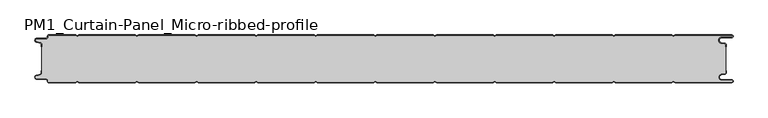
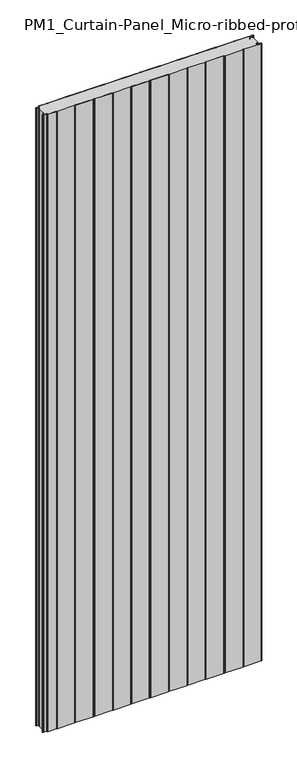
"""IFC4 building model written with IfcOpenShell, lengths in millimetres: plate geometry, PM1_Curtain-Panel_Micro-ribbed-profile : ACH_PM1_Stone-wool-Panel_80M."""

from ifc_helpers import new_model, si_unit, point, frame_2d, origin, origin_with_axes, place, context, project, spatial, polyline, circle_curve, trimmed, segment, composite_curve, outline, extrude, source, transform, mapped, element, save


def pm1_curtain_panel_micro_ribbed_profile_60066d41(model_context):
    return source(origin(), model_context, "Body", "SweptSolid", [
        extrude(outline(composite_curve([segment(trimmed(circle_curve(frame_2d((-577.0, -15.878557)), 2.0), [point((-575.0, -15.878557))], [point((-576.5500978, -13.9298169))], True, "CARTESIAN"), True, "CONTINUOUS"), segment(polyline([(-576.5500978, -13.9298169), (-582.7098239, -12.507732)]), True, "CONTINUOUS"), segment(trimmed(circle_curve(frame_2d((-581.9, -9.0)), 3.6), [point((-582.7098239, -12.507732))], [point((-581.9, -5.4))], False, "CARTESIAN"), True, "CONTINUOUS"), segment(polyline([(-581.9, -5.4), (-566.4, -5.4)]), True, "CONTINUOUS"), segment(trimmed(circle_curve(frame_2d((-566.4, -3.4)), 2.0), [point((-566.4, -5.4))], [point((-564.4, -3.4))], True, "CARTESIAN"), True, "CONTINUOUS"), segment(polyline([(-564.4, -3.4), (-564.4, -2.0)]), True, "CONTINUOUS"), segment(trimmed(circle_curve(frame_2d((-562.4, -2.0)), 2.0), [point((-564.4, -2.0))], [point((-562.4, 0.0))], False, "CARTESIAN"), True, "CONTINUOUS"), segment(polyline([(-562.4, 0.0), (-517.0999995, 0.0), (-514.4, -1.5588455), (-511.7000005, 0.0), (-417.0999995, 0.0), (-414.4, -1.5588455), (-411.7000005, 0.0), (-317.0999995, 0.0), (-314.4, -1.5588455), (-311.7000005, 0.0), (-217.0999995, 0.0), (-214.4, -1.5588455), (-211.7000005, 0.0), (-117.0999995, 0.0), (-114.4, -1.5588455), (-111.7000005, 0.0), (-17.0999995, 0.0), (-14.4, -1.5588455), (-11.7000005, 0.0), (82.9000005, 0.0), (85.6, -1.5588455), (88.2999995, 0.0), (182.9000005, 0.0), (185.6, -1.5588455), (188.2999995, 0.0), (282.9000005, 0.0), (285.6, -1.5588455), (288.2999995, 0.0), (382.9000005, 0.0), (385.6, -1.5588455), (388.2999995, 0.0), (482.9000005, 0.0), (485.6, -1.5588455), (488.2999995, 0.0), (583.1, 0.0)]), True, "CONTINUOUS"), segment(trimmed(circle_curve(frame_2d((583.1, -2.5)), 2.5), [point((583.1, 0.0))], [point((583.1, -5.0))], False, "CARTESIAN"), True, "CONTINUOUS"), segment(polyline([(583.1, -5.0), (566.1, -5.0)]), True, "CONTINUOUS"), segment(trimmed(circle_curve(frame_2d((566.1, -9.0)), 4.0), [point((566.1, -5.0))], [point((565.405407, -12.939231))], True, "CARTESIAN"), True, "CONTINUOUS"), segment(polyline([(565.405407, -12.939231), (571.8514855, -14.0758491)]), True, "CONTINUOUS"), segment(trimmed(circle_curve(frame_2d((571.4, -16.6363492)), 2.6), [point((571.8514855, -14.0758491))], [point((574.0, -16.6363492))], False, "CARTESIAN"), True, "CONTINUOUS"), segment(polyline([(574.0, -16.6363492), (574.0, -20.0), (573.2, -20.0), (573.2, -16.6363492)]), True, "CONTINUOUS"), segment(trimmed(circle_curve(frame_2d((571.4, -16.6363492)), 1.8), [point((573.2, -16.6363492))], [point((571.7125669, -14.8636953))], True, "CARTESIAN"), True, "CONTINUOUS"), segment(polyline([(571.7125669, -14.8636953), (565.2664884, -13.7270772)]), True, "CONTINUOUS"), segment(trimmed(circle_curve(frame_2d((566.1, -9.0)), 4.8), [point((565.2664884, -13.7270772))], [point((566.1, -4.2))], False, "CARTESIAN"), True, "CONTINUOUS"), segment(polyline([(566.1, -4.2), (583.1, -4.2)]), True, "CONTINUOUS"), segment(trimmed(circle_curve(frame_2d((583.1, -2.5)), 1.7), [point((583.1, -4.2))], [point((583.1, -0.8))], True, "CARTESIAN"), True, "CONTINUOUS"), segment(polyline([(583.1, -0.8), (488.5143588, -0.8), (485.6, -2.482606), (482.6856412, -0.8), (388.5143588, -0.8), (385.6, -2.482606), (382.6856412, -0.8), (288.5143588, -0.8), (285.6, -2.482606), (282.6856412, -0.8), (188.5143588, -0.8), (185.6, -2.482606), (182.6856412, -0.8), (88.5143588, -0.8), (85.6, -2.482606), (82.6856412, -0.8), (-11.4856412, -0.8), (-14.4, -2.482606), (-17.3143588, -0.8), (-111.4856412, -0.8), (-114.4, -2.482606), (-117.3143588, -0.8), (-211.4856412, -0.8), (-214.4, -2.482606), (-217.3143588, -0.8), (-311.4856412, -0.8), (-314.4, -2.482606), (-317.3143588, -0.8), (-411.4856412, -0.8), (-414.4, -2.482606), (-417.3143588, -0.8), (-511.4856412, -0.8), (-514.4, -2.482606), (-517.3143588, -0.8), (-562.4, -0.8)]), True, "CONTINUOUS"), segment(trimmed(circle_curve(frame_2d((-562.4, -2.0)), 1.2), [point((-562.4, -0.8))], [point((-563.6, -2.0))], True, "CARTESIAN"), True, "CONTINUOUS"), segment(polyline([(-563.6, -2.0), (-563.6, -3.4)]), True, "CONTINUOUS"), segment(trimmed(circle_curve(frame_2d((-566.4, -3.4)), 2.8), [point((-563.6, -3.4))], [point((-566.4, -6.2))], False, "CARTESIAN"), True, "CONTINUOUS"), segment(polyline([(-566.4, -6.2), (-581.9, -6.2)]), True, "CONTINUOUS"), segment(trimmed(circle_curve(frame_2d((-581.9, -9.0)), 2.8), [point((-581.9, -6.2))], [point((-582.529863, -11.7282362))], True, "CARTESIAN"), True, "CONTINUOUS"), segment(polyline([(-582.529863, -11.7282362), (-576.370137, -13.150321)]), True, "CONTINUOUS"), segment(trimmed(circle_curve(frame_2d((-577.0, -15.878557)), 2.8), [point((-576.370137, -13.150321))], [point((-574.2, -15.878557))], False, "CARTESIAN"), True, "CONTINUOUS"), segment(polyline([(-574.2, -15.878557), (-574.2, -20.0), (-575.0, -20.0), (-575.0, -15.878557)]), True, "CONTINUOUS")], self_intersect=False)), origin_with_axes(), (0.0, 0.0, 1.0), 3500.0),
        extrude(outline(composite_curve([segment(polyline([(-574.2, -64.1214426), (-574.2, -15.8785573)]), True, "CONTINUOUS"), segment(trimmed(circle_curve(frame_2d((-577.0, -15.8785573)), 2.8), [point((-574.2, -15.8785573))], [point((-576.370137, -13.1503212))], True, "CARTESIAN"), True, "CONTINUOUS"), segment(polyline([(-576.370137, -13.1503212), (-582.5298631, -11.7282362)]), True, "CONTINUOUS"), segment(trimmed(circle_curve(frame_2d((-581.9, -9.0)), 2.8), [point((-582.5298631, -11.7282362))], [point((-581.9, -6.2))], False, "CARTESIAN"), True, "CONTINUOUS"), segment(polyline([(-581.9, -6.2), (-566.4000001, -6.2)]), True, "CONTINUOUS"), segment(trimmed(circle_curve(frame_2d((-566.4000001, -3.4)), 2.8), [point((-566.4000001, -6.2))], [point((-563.6000001, -3.4))], True, "CARTESIAN"), True, "CONTINUOUS"), segment(polyline([(-563.6000001, -3.4), (-563.6000001, -2.0)]), True, "CONTINUOUS"), segment(trimmed(circle_curve(frame_2d((-562.4000001, -2.0)), 1.2), [point((-563.6000001, -2.0))], [point((-562.4000001, -0.8))], False, "CARTESIAN"), True, "CONTINUOUS"), segment(polyline([(-562.4000001, -0.8), (-517.3143589, -0.8), (-514.4000001, -2.482606), (-511.4856412, -0.8), (-417.3143589, -0.8), (-414.4000001, -2.482606), (-411.4856412, -0.8), (-317.3143589, -0.8), (-314.4000001, -2.482606), (-311.4856412, -0.8), (-217.3143589, -0.8), (-214.4000001, -2.482606), (-211.4856412, -0.8), (-117.3143589, -0.8), (-114.4000001, -2.482606), (-111.4856412, -0.8), (-17.3143589, -0.8), (-14.4000001, -2.482606), (-11.4856412, -0.8), (82.6856411, -0.8), (85.5999999, -2.482606), (88.5143588, -0.8), (182.6856411, -0.8), (185.5999999, -2.482606), (188.5143588, -0.8), (282.6856411, -0.8), (285.5999999, -2.482606), (288.5143588, -0.8), (382.6856411, -0.8), (385.5999999, -2.482606), (388.5143588, -0.8), (482.6856411, -0.8), (485.6, -2.482606), (488.5143588, -0.8), (583.1, -0.8)]), True, "CONTINUOUS"), segment(trimmed(circle_curve(frame_2d((583.1, -2.5)), 1.7), [point((583.1, -0.8))], [point((583.1, -4.2))], False, "CARTESIAN"), True, "CONTINUOUS"), segment(polyline([(583.1, -4.2), (566.1, -4.2)]), True, "CONTINUOUS"), segment(trimmed(circle_curve(frame_2d((566.1, -9.0)), 4.8), [point((566.1, -4.2))], [point((565.2664883, -13.7270771))], True, "CARTESIAN"), True, "CONTINUOUS"), segment(polyline([(565.2664883, -13.7270771), (571.7125668, -14.8636953)]), True, "CONTINUOUS"), segment(trimmed(circle_curve(frame_2d((571.4, -16.6363492)), 1.8), [point((571.7125668, -14.8636953))], [point((573.2, -16.6363492))], False, "CARTESIAN"), True, "CONTINUOUS"), segment(polyline([(573.2, -16.6363492), (573.2, -63.3636508)]), True, "CONTINUOUS"), segment(trimmed(circle_curve(frame_2d((571.4, -63.3636508)), 1.8), [point((573.2, -63.3636508))], [point((571.7125668, -65.1363047))], False, "CARTESIAN"), True, "CONTINUOUS"), segment(polyline([(571.7125668, -65.1363047), (565.2664883, -66.2729229)]), True, "CONTINUOUS"), segment(trimmed(circle_curve(frame_2d((566.1, -71.0)), 4.8), [point((565.2664883, -66.2729229))], [point((566.1, -75.8))], True, "CARTESIAN"), True, "CONTINUOUS"), segment(polyline([(566.1, -75.8), (583.1, -75.8)]), True, "CONTINUOUS"), segment(trimmed(circle_curve(frame_2d((583.1, -77.5)), 1.7), [point((583.1, -75.8))], [point((583.1, -79.2))], False, "CARTESIAN"), True, "CONTINUOUS"), segment(polyline([(583.1, -79.2), (488.5143588, -79.2), (485.6, -77.517394), (482.6856411, -79.2), (388.5143588, -79.2), (385.5999999, -77.517394), (382.6856411, -79.2), (288.5143588, -79.2), (285.5999999, -77.517394), (282.6856411, -79.2), (188.5143588, -79.2), (185.5999999, -77.517394), (182.6856411, -79.2), (88.5143588, -79.2), (85.5999999, -77.517394), (82.6856411, -79.2), (-11.4856412, -79.2), (-14.4000001, -77.517394), (-17.3143589, -79.2), (-111.4856412, -79.2), (-114.4000001, -77.517394), (-117.3143589, -79.2), (-211.4856412, -79.2), (-214.4000001, -77.517394), (-217.3143589, -79.2), (-311.4856412, -79.2), (-314.4000001, -77.517394), (-317.3143589, -79.2), (-411.4856412, -79.2), (-414.4000001, -77.517394), (-417.3143589, -79.2), (-511.4856412, -79.2), (-514.4000001, -77.517394), (-517.3143589, -79.2), (-562.4000001, -79.2)]), True, "CONTINUOUS"), segment(trimmed(circle_curve(frame_2d((-562.4000001, -78.0)), 1.2), [point((-562.4000001, -79.2))], [point((-563.6000001, -78.0))], False, "CARTESIAN"), True, "CONTINUOUS"), segment(polyline([(-563.6000001, -78.0), (-563.6000001, -76.6)]), True, "CONTINUOUS"), segment(trimmed(circle_curve(frame_2d((-566.4000001, -76.6)), 2.8), [point((-563.6000001, -76.6))], [point((-566.4000001, -73.8))], True, "CARTESIAN"), True, "CONTINUOUS"), segment(polyline([(-566.4000001, -73.8), (-581.9, -73.8)]), True, "CONTINUOUS"), segment(trimmed(circle_curve(frame_2d((-581.9, -71.0)), 2.8), [point((-581.9, -73.8))], [point((-582.5298631, -68.2717638))], False, "CARTESIAN"), True, "CONTINUOUS"), segment(polyline([(-582.5298631, -68.2717638), (-576.370137, -66.8496788)]), True, "CONTINUOUS"), segment(trimmed(circle_curve(frame_2d((-577.0, -64.1214426)), 2.8), [point((-576.370137, -66.8496788))], [point((-574.2, -64.1214426))], True, "CARTESIAN"), True, "CONTINUOUS")], self_intersect=False)), origin_with_axes(), (0.0, 0.0, 1.0), 3500.0),
        extrude(outline(composite_curve([segment(polyline([(-575.0, -64.121443), (-575.0, -60.0), (-574.2, -60.0), (-574.2, -64.121443)]), True, "CONTINUOUS"), segment(trimmed(circle_curve(frame_2d((-577.0, -64.121443)), 2.8), [point((-574.2, -64.121443))], [point((-576.370137, -66.8496792))], False, "CARTESIAN"), True, "CONTINUOUS"), segment(polyline([(-576.370137, -66.8496792), (-582.529863, -68.271764)]), True, "CONTINUOUS"), segment(trimmed(circle_curve(frame_2d((-581.9, -71.0)), 2.8), [point((-582.529863, -68.271764))], [point((-581.9, -73.8))], True, "CARTESIAN"), True, "CONTINUOUS"), segment(polyline([(-581.9, -73.8), (-566.4, -73.8)]), True, "CONTINUOUS"), segment(trimmed(circle_curve(frame_2d((-566.4, -76.6)), 2.8), [point((-566.4, -73.8))], [point((-563.6, -76.6))], False, "CARTESIAN"), True, "CONTINUOUS"), segment(polyline([(-563.6, -76.6), (-563.6, -78.0)]), True, "CONTINUOUS"), segment(trimmed(circle_curve(frame_2d((-562.4, -78.0)), 1.2), [point((-563.6, -78.0))], [point((-562.4, -79.2))], True, "CARTESIAN"), True, "CONTINUOUS"), segment(polyline([(-562.4, -79.2), (-517.3143588, -79.2), (-514.4, -77.517394), (-511.4856412, -79.2), (-417.3143588, -79.2), (-414.4, -77.517394), (-411.4856412, -79.2), (-317.3143588, -79.2), (-314.4, -77.517394), (-311.4856412, -79.2), (-217.3143588, -79.2), (-214.4, -77.517394), (-211.4856412, -79.2), (-117.3143588, -79.2), (-114.4, -77.517394), (-111.4856412, -79.2), (-17.3143588, -79.2), (-14.4, -77.517394), (-11.4856412, -79.2), (82.6856412, -79.2), (85.6, -77.517394), (88.5143588, -79.2), (182.6856412, -79.2), (185.6, -77.517394), (188.5143588, -79.2), (282.6856412, -79.2), (285.6, -77.517394), (288.5143588, -79.2), (382.6856412, -79.2), (385.6, -77.517394), (388.5143588, -79.2), (482.6856412, -79.2), (485.6, -77.517394), (488.5143588, -79.2), (583.1, -79.2)]), True, "CONTINUOUS"), segment(trimmed(circle_curve(frame_2d((583.1, -77.5)), 1.7), [point((583.1, -79.2))], [point((583.1, -75.8))], True, "CARTESIAN"), True, "CONTINUOUS"), segment(polyline([(583.1, -75.8), (566.1, -75.8)]), True, "CONTINUOUS"), segment(trimmed(circle_curve(frame_2d((566.1, -71.0)), 4.8), [point((566.1, -75.8))], [point((565.2664884, -66.2729229))], False, "CARTESIAN"), True, "CONTINUOUS"), segment(polyline([(565.2664884, -66.2729229), (571.7125669, -65.1363047)]), True, "CONTINUOUS"), segment(trimmed(circle_curve(frame_2d((571.4, -63.3636508)), 1.8), [point((571.7125669, -65.1363047))], [point((573.2, -63.3636508))], True, "CARTESIAN"), True, "CONTINUOUS"), segment(polyline([(573.2, -63.3636508), (573.2, -60.0), (574.0, -60.0), (574.0, -63.3636508)]), True, "CONTINUOUS"), segment(trimmed(circle_curve(frame_2d((571.4, -63.3636508)), 2.6), [point((574.0, -63.3636508))], [point((571.8514855, -65.9241509))], False, "CARTESIAN"), True, "CONTINUOUS"), segment(polyline([(571.8514855, -65.9241509), (565.405407, -67.060769)]), True, "CONTINUOUS"), segment(trimmed(circle_curve(frame_2d((566.1, -71.0)), 4.0), [point((565.405407, -67.060769))], [point((566.1, -75.0))], True, "CARTESIAN"), True, "CONTINUOUS"), segment(polyline([(566.1, -75.0), (583.1, -75.0)]), True, "CONTINUOUS"), segment(trimmed(circle_curve(frame_2d((583.1, -77.5)), 2.5), [point((583.1, -75.0))], [point((583.1, -80.0))], False, "CARTESIAN"), True, "CONTINUOUS"), segment(polyline([(583.1, -80.0), (488.2999995, -80.0), (485.6, -78.4411545), (482.9000005, -80.0), (388.2999995, -80.0), (385.6, -78.4411545), (382.9000005, -80.0), (288.2999995, -80.0), (285.6, -78.4411545), (282.9000005, -80.0), (188.2999995, -80.0), (185.6, -78.4411545), (182.9000005, -80.0), (88.2999995, -80.0), (85.6, -78.4411545), (82.9000005, -80.0), (-11.7000005, -80.0), (-14.4, -78.4411545), (-17.0999995, -80.0), (-111.7000005, -80.0), (-114.4, -78.4411545), (-117.0999995, -80.0), (-211.7000005, -80.0), (-214.4, -78.4411545), (-217.0999995, -80.0), (-311.7000005, -80.0), (-314.4, -78.4411545), (-317.0999995, -80.0), (-411.7000005, -80.0), (-414.4, -78.4411545), (-417.0999995, -80.0), (-511.7000005, -80.0), (-514.4, -78.4411545), (-517.0999995, -80.0), (-562.4, -80.0)]), True, "CONTINUOUS"), segment(trimmed(circle_curve(frame_2d((-562.4, -78.0)), 2.0), [point((-562.4, -80.0))], [point((-564.4, -78.0))], False, "CARTESIAN"), True, "CONTINUOUS"), segment(polyline([(-564.4, -78.0), (-564.4, -76.6)]), True, "CONTINUOUS"), segment(trimmed(circle_curve(frame_2d((-566.4, -76.6)), 2.0), [point((-564.4, -76.6))], [point((-566.4, -74.6))], True, "CARTESIAN"), True, "CONTINUOUS"), segment(polyline([(-566.4, -74.6), (-581.9, -74.6)]), True, "CONTINUOUS"), segment(trimmed(circle_curve(frame_2d((-581.9, -71.0)), 3.6), [point((-581.9, -74.6))], [point((-582.7098239, -67.4922678))], False, "CARTESIAN"), True, "CONTINUOUS"), segment(polyline([(-582.7098239, -67.4922678), (-576.5500979, -66.070183)]), True, "CONTINUOUS"), segment(trimmed(circle_curve(frame_2d((-577.0, -64.121443)), 2.0), [point((-576.5500979, -66.070183))], [point((-575.0, -64.121443))], True, "CARTESIAN"), True, "CONTINUOUS")], self_intersect=False)), origin_with_axes(), (0.0, 0.0, 1.0), 3500.0),
    ])


if __name__ == "__main__":
    model = new_model("IFC4")
    model_context = context("Model", 3, world=origin())
    ifc_project = project(units=[si_unit("LENGTHUNIT", "METRE", prefix="MILLI")], contexts=[model_context])
    site = spatial("IfcSite", under=ifc_project)
    building = spatial("IfcBuilding", under=site)
    placement = place(None, origin())
    pm1_curtain_panel_micro_ribbed_profile_shape = pm1_curtain_panel_micro_ribbed_profile_60066d41(model_context)
    element("IfcPlate", 1, ObjectType="PM1_Curtain-Panel_Micro-ribbed-profile : ACH_PM1_Stone-wool-Panel_80M", at=placement, inside=building, context=model_context, shape_type="MappedRepresentation", body=[
        mapped(pm1_curtain_panel_micro_ribbed_profile_shape, transform((0.0, 0.0, 0.0), x_axis=(1.0, 0.0, 0.0), y_axis=(0.0, 1.0, 0.0), z_axis=(0.0, 0.0, 1.0))),
    ])
    save(model, "model.ifc")
